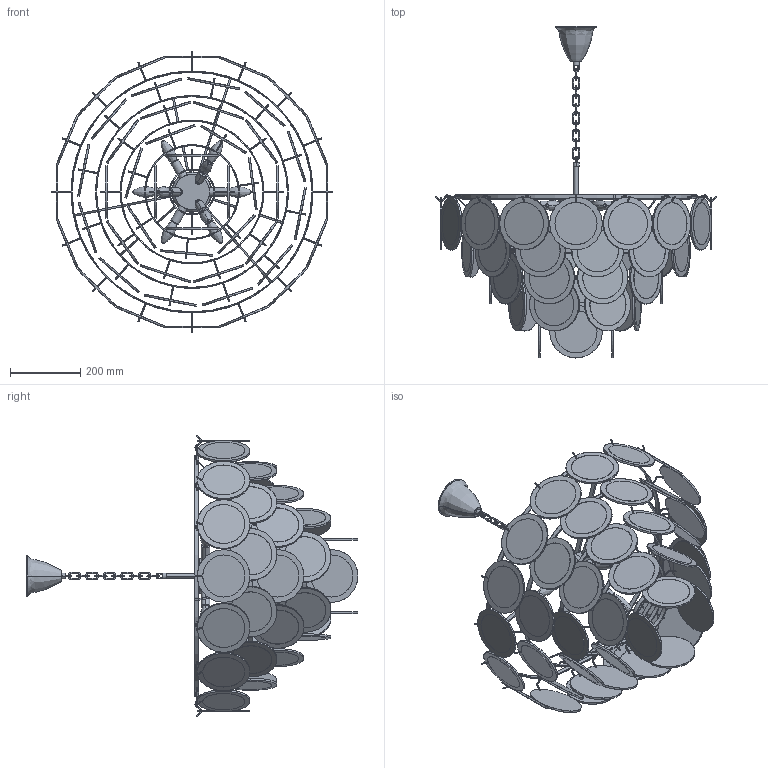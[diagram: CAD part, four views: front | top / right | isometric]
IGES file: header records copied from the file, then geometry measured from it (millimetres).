
Start section: SolidWorks IGES file using analytic representation for surfaces
Global section: file name: F:\燠隴矨\3D\2025-5\Bettina Murano Chandelier-D80cm.IGS,15; native system: HSolidWorks 2022; preprocessor: SolidWorks 2022; author: MyPC; date: 250506.111745; units: millimetre
Bounding box: 801.55 x 946.74 x 801.55 mm (x, y, z)
Surface area: 2364579.3 mm2 (no closed solid volume)
Topology: 0 solids, 0 shells, 1133 faces, 23140 edges, 23131 vertices
Faces by surface type: bspline 679, revolution 454
